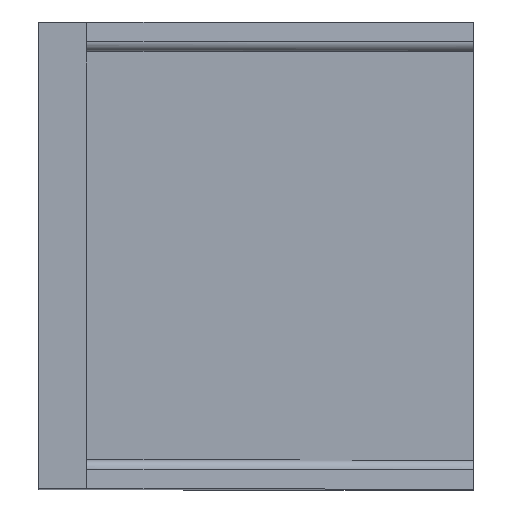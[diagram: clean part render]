
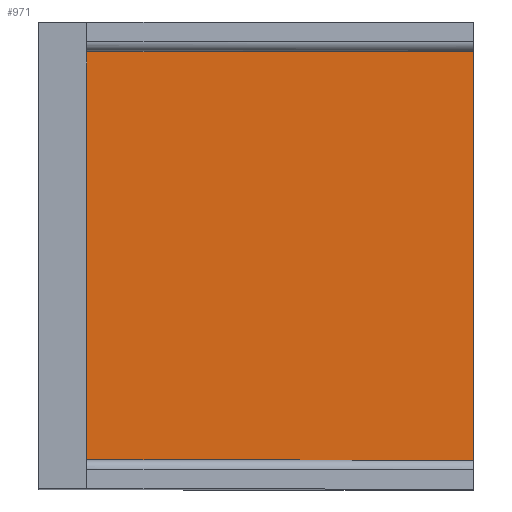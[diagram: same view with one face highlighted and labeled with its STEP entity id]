
A CAD part, top view. The second image highlights one B-rep face of the part: STEP entity #971.
In plain terms, the highlighted planar face has unit normal (0, 0, 1).
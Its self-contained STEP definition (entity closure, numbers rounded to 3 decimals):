
#919=CARTESIAN_POINT('Vertex',(45.,3.,0.)) ;
#922=CARTESIAN_POINT('Line Origine',(25.,3.,0.)) ;
#926=CARTESIAN_POINT('Vertex',(5.,3.,0.)) ;
#941=CARTESIAN_POINT('Axis2P3D Location',(45.,3.,0.)) ;
#946=CARTESIAN_POINT('Line Origine',(45.,24.15,0.)) ;
#950=CARTESIAN_POINT('Vertex',(45.,45.3,0.)) ;
#953=CARTESIAN_POINT('Line Origine',(25.,45.3,0.)) ;
#957=CARTESIAN_POINT('Vertex',(5.,45.3,0.)) ;
#960=CARTESIAN_POINT('Line Origine',(5.,24.15,0.)) ;
#923=DIRECTION('Vector Direction',(-1.,0.,0.)) ;
#942=DIRECTION('Axis2P3D Direction',(0.,-0.,1.)) ;
#943=DIRECTION('Axis2P3D XDirection',(0.,1.,0.)) ;
#947=DIRECTION('Vector Direction',(0.,1.,0.)) ;
#954=DIRECTION('Vector Direction',(-1.,0.,0.)) ;
#961=DIRECTION('Vector Direction',(0.,1.,0.)) ;
#944=AXIS2_PLACEMENT_3D('Plane Axis2P3D',#941,#942,#943) ;
#966=ORIENTED_EDGE('',*,*,#928,.F.) ;
#967=ORIENTED_EDGE('',*,*,#952,.T.) ;
#968=ORIENTED_EDGE('',*,*,#959,.T.) ;
#969=ORIENTED_EDGE('',*,*,#964,.F.) ;
#924=VECTOR('Line Direction',#923,1.) ;
#948=VECTOR('Line Direction',#947,1.) ;
#955=VECTOR('Line Direction',#954,1.) ;
#962=VECTOR('Line Direction',#961,1.) ;
#971=ADVANCED_FACE('Hauptk\X2\00F6\X0\rper',(#970),#945,.T.) ;
#928=EDGE_CURVE('',#920,#927,#925,.T.) ;
#952=EDGE_CURVE('',#920,#951,#949,.T.) ;
#959=EDGE_CURVE('',#951,#958,#956,.T.) ;
#964=EDGE_CURVE('',#927,#958,#963,.T.) ;
#965=EDGE_LOOP('',(#966,#967,#968,#969)) ;
#970=FACE_OUTER_BOUND('',#965,.T.) ;
#925=LINE('Line',#922,#924) ;
#949=LINE('Line',#946,#948) ;
#956=LINE('Line',#953,#955) ;
#963=LINE('Line',#960,#962) ;
#945=PLANE('',#944) ;
#920=VERTEX_POINT('',#919) ;
#927=VERTEX_POINT('',#926) ;
#951=VERTEX_POINT('',#950) ;
#958=VERTEX_POINT('',#957) ;
